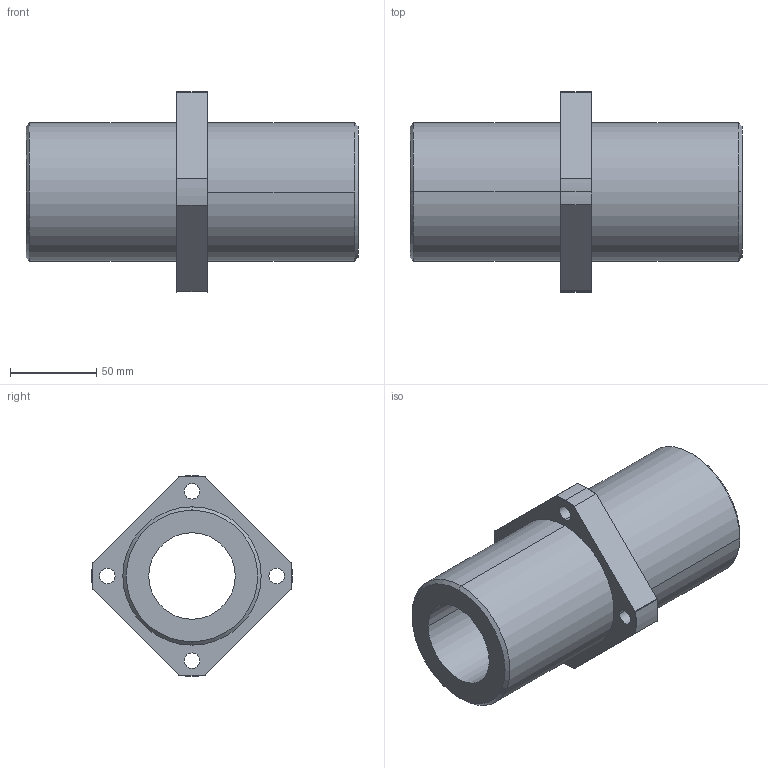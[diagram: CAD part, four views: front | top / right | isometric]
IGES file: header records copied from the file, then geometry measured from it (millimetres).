
Start section: 3D InterOp IGES (Version 21 0 1), Spatial Corp. Copyright (c) 1999-2007.
Global section: file name: CFPJ50.igs; native system: Spatial Corp.; preprocessor: 3D InterOp GENERIC/IGES 3.0; author: Noname; organization: Noname; date: 20220324.125716; units: millimetre
Bounding box: 192 x 115.89 x 116 mm (x, y, z)
Surface area: 94071 mm2 (no closed solid volume)
Topology: 0 solids, 0 shells, 53 faces, 264 edges, 264 vertices
Faces by surface type: revolution 41, extrusion 12
